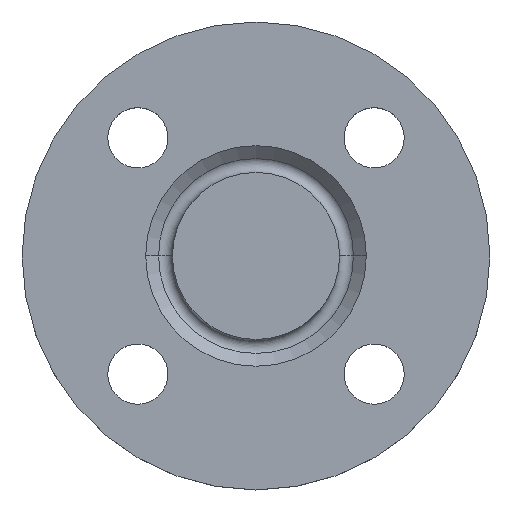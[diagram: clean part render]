
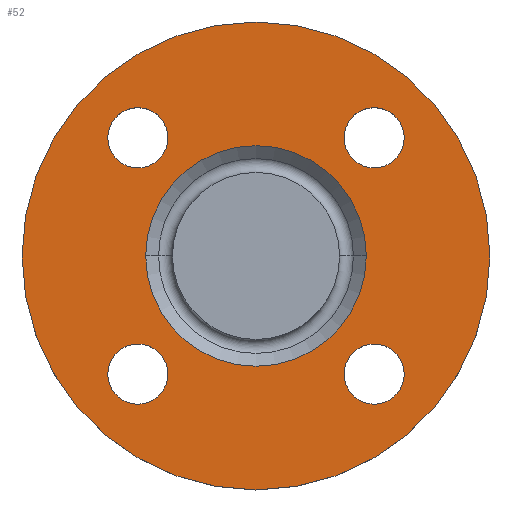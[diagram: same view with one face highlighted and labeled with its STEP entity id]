
A CAD part, top view. The second image highlights one B-rep face of the part: STEP entity #52.
In plain terms, the highlighted planar face has unit normal (0, 0, 1).
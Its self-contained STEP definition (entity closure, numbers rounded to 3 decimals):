
#2 = CIRCLE ( 'NONE', #486, 70. ) ;
#4 = DIRECTION ( 'NONE',  ( 0., 0., -1. ) ) ;
#9 = VERTEX_POINT ( 'NONE', #310 ) ;
#11 = CARTESIAN_POINT ( 'NONE',  ( 35.355, -35.355, -2. ) ) ;
#12 = EDGE_CURVE ( 'NONE', #539, #420, #18, .T. ) ;
#18 = CIRCLE ( 'NONE', #446, 9. ) ;
#22 = VERTEX_POINT ( 'NONE', #181 ) ;
#23 = ORIENTED_EDGE ( 'NONE', *, *, #587, .T. ) ;
#29 = ORIENTED_EDGE ( 'NONE', *, *, #489, .T. ) ;
#52 = ADVANCED_FACE ( 'NONE', ( #226, #494, #761, #165, #431, #413 ), #671, .T. ) ;
#57 = CARTESIAN_POINT ( 'NONE',  ( -26.355, -35.355, -2. ) ) ;
#61 = DIRECTION ( 'NONE',  ( -1., 0., 0. ) ) ;
#72 = VERTEX_POINT ( 'NONE', #155 ) ;
#82 = DIRECTION ( 'NONE',  ( 0., 0., -1. ) ) ;
#87 = DIRECTION ( 'NONE',  ( 0., 0., -1. ) ) ;
#90 = CARTESIAN_POINT ( 'NONE',  ( 70., 0., -2. ) ) ;
#93 = DIRECTION ( 'NONE',  ( 1., 0., 0. ) ) ;
#110 = DIRECTION ( 'NONE',  ( 1., 0., 0. ) ) ;
#118 = DIRECTION ( 'NONE',  ( -1., 0., 0. ) ) ;
#124 = EDGE_LOOP ( 'NONE', ( #491, #23 ) ) ;
#127 = VERTEX_POINT ( 'NONE', #57 ) ;
#135 = CARTESIAN_POINT ( 'NONE',  ( 26.355, 35.355, -2. ) ) ;
#139 = VERTEX_POINT ( 'NONE', #777 ) ;
#144 = DIRECTION ( 'NONE',  ( 1., 0., 0. ) ) ;
#149 = EDGE_CURVE ( 'NONE', #714, #608, #236, .T. ) ;
#153 = ORIENTED_EDGE ( 'NONE', *, *, #12, .T. ) ;
#155 = CARTESIAN_POINT ( 'NONE',  ( -44.355, 35.355, -2. ) ) ;
#165 = FACE_BOUND ( 'NONE', #745, .T. ) ;
#166 = EDGE_CURVE ( 'NONE', #608, #714, #347, .T. ) ;
#168 = CARTESIAN_POINT ( 'NONE',  ( -70., 0., -2. ) ) ;
#181 = CARTESIAN_POINT ( 'NONE',  ( -44.355, -35.355, -2. ) ) ;
#188 = CARTESIAN_POINT ( 'NONE',  ( 26.355, -35.355, -2. ) ) ;
#189 = ORIENTED_EDGE ( 'NONE', *, *, #526, .F. ) ;
#199 = ORIENTED_EDGE ( 'NONE', *, *, #371, .T. ) ;
#204 = ORIENTED_EDGE ( 'NONE', *, *, #507, .T. ) ;
#226 = FACE_BOUND ( 'NONE', #265, .T. ) ;
#229 = AXIS2_PLACEMENT_3D ( 'NONE', #435, #696, #110 ) ;
#235 = AXIS2_PLACEMENT_3D ( 'NONE', #662, #82, #334 ) ;
#236 = CIRCLE ( 'NONE', #715, 33. ) ;
#244 = DIRECTION ( 'NONE',  ( 1., 0., 0. ) ) ;
#254 = AXIS2_PLACEMENT_3D ( 'NONE', #11, #266, #536 ) ;
#258 = DIRECTION ( 'NONE',  ( 1., 0., 0. ) ) ;
#261 = DIRECTION ( 'NONE',  ( 0., 0., -1. ) ) ;
#263 = ORIENTED_EDGE ( 'NONE', *, *, #166, .T. ) ;
#265 = EDGE_LOOP ( 'NONE', ( #29, #204 ) ) ;
#266 = DIRECTION ( 'NONE',  ( 0., 0., -1. ) ) ;
#272 = ORIENTED_EDGE ( 'NONE', *, *, #607, .T. ) ;
#273 = CARTESIAN_POINT ( 'NONE',  ( -35.355, -35.355, -2. ) ) ;
#305 = CIRCLE ( 'NONE', #790, 9. ) ;
#310 = CARTESIAN_POINT ( 'NONE',  ( 44.355, -35.355, -2. ) ) ;
#334 = DIRECTION ( 'NONE',  ( -1., 0., 0. ) ) ;
#338 = VERTEX_POINT ( 'NONE', #764 ) ;
#341 = DIRECTION ( 'NONE',  ( 1., 0., 0. ) ) ;
#344 = DIRECTION ( 'NONE',  ( 0., 0., 1. ) ) ;
#346 = VERTEX_POINT ( 'NONE', #168 ) ;
#347 = CIRCLE ( 'NONE', #837, 33. ) ;
#362 = AXIS2_PLACEMENT_3D ( 'NONE', #273, #541, #805 ) ;
#370 = CIRCLE ( 'NONE', #229, 9. ) ;
#371 = EDGE_CURVE ( 'NONE', #338, #72, #370, .T. ) ;
#382 = CARTESIAN_POINT ( 'NONE',  ( 0., 0., -2. ) ) ;
#398 = ORIENTED_EDGE ( 'NONE', *, *, #149, .T. ) ;
#409 = CARTESIAN_POINT ( 'NONE',  ( -33., 0., -2. ) ) ;
#413 = FACE_OUTER_BOUND ( 'NONE', #669, .T. ) ;
#418 = CARTESIAN_POINT ( 'NONE',  ( -35.355, 35.355, -2. ) ) ;
#420 = VERTEX_POINT ( 'NONE', #574 ) ;
#431 = FACE_BOUND ( 'NONE', #749, .T. ) ;
#435 = CARTESIAN_POINT ( 'NONE',  ( -35.355, 35.355, -2. ) ) ;
#446 = AXIS2_PLACEMENT_3D ( 'NONE', #573, #844, #244 ) ;
#447 = CARTESIAN_POINT ( 'NONE',  ( 0., 0., -2. ) ) ;
#458 = AXIS2_PLACEMENT_3D ( 'NONE', #473, #735, #144 ) ;
#460 = AXIS2_PLACEMENT_3D ( 'NONE', #90, #344, #610 ) ;
#467 = VERTEX_POINT ( 'NONE', #188 ) ;
#473 = CARTESIAN_POINT ( 'NONE',  ( 35.355, 35.355, -2. ) ) ;
#479 = AXIS2_PLACEMENT_3D ( 'NONE', #668, #87, #341 ) ;
#486 = AXIS2_PLACEMENT_3D ( 'NONE', #730, #261, #530 ) ;
#489 = EDGE_CURVE ( 'NONE', #9, #467, #305, .T. ) ;
#491 = ORIENTED_EDGE ( 'NONE', *, *, #754, .T. ) ;
#494 = FACE_BOUND ( 'NONE', #124, .T. ) ;
#507 = EDGE_CURVE ( 'NONE', #467, #9, #630, .T. ) ;
#526 = EDGE_CURVE ( 'NONE', #139, #346, #2, .T. ) ;
#530 = DIRECTION ( 'NONE',  ( -1., 0., 0. ) ) ;
#536 = DIRECTION ( 'NONE',  ( 1., 0., 0. ) ) ;
#539 = VERTEX_POINT ( 'NONE', #135 ) ;
#541 = DIRECTION ( 'NONE',  ( 0., 0., -1. ) ) ;
#551 = ORIENTED_EDGE ( 'NONE', *, *, #802, .T. ) ;
#573 = CARTESIAN_POINT ( 'NONE',  ( 35.355, 35.355, -2. ) ) ;
#574 = CARTESIAN_POINT ( 'NONE',  ( 44.355, 35.355, -2. ) ) ;
#586 = CARTESIAN_POINT ( 'NONE',  ( 35.355, -35.355, -2. ) ) ;
#587 = EDGE_CURVE ( 'NONE', #22, #127, #725, .T. ) ;
#600 = CARTESIAN_POINT ( 'NONE',  ( 33., 0., -2. ) ) ;
#601 = ORIENTED_EDGE ( 'NONE', *, *, #713, .F. ) ;
#604 = CIRCLE ( 'NONE', #235, 70. ) ;
#607 = EDGE_CURVE ( 'NONE', #420, #539, #842, .T. ) ;
#608 = VERTEX_POINT ( 'NONE', #409 ) ;
#610 = DIRECTION ( 'NONE',  ( 1., 0., 0. ) ) ;
#630 = CIRCLE ( 'NONE', #254, 9. ) ;
#642 = DIRECTION ( 'NONE',  ( 0., 0., -1. ) ) ;
#662 = CARTESIAN_POINT ( 'NONE',  ( 0., 0., -2. ) ) ;
#668 = CARTESIAN_POINT ( 'NONE',  ( -35.355, -35.355, -2. ) ) ;
#669 = EDGE_LOOP ( 'NONE', ( #189, #601 ) ) ;
#671 = PLANE ( 'NONE',  #460 ) ;
#679 = DIRECTION ( 'NONE',  ( 0., 0., -1. ) ) ;
#696 = DIRECTION ( 'NONE',  ( 0., 0., -1. ) ) ;
#702 = AXIS2_PLACEMENT_3D ( 'NONE', #418, #679, #93 ) ;
#707 = DIRECTION ( 'NONE',  ( 0., 0., -1. ) ) ;
#713 = EDGE_CURVE ( 'NONE', #346, #139, #604, .T. ) ;
#714 = VERTEX_POINT ( 'NONE', #600 ) ;
#715 = AXIS2_PLACEMENT_3D ( 'NONE', #447, #707, #118 ) ;
#725 = CIRCLE ( 'NONE', #362, 9. ) ;
#730 = CARTESIAN_POINT ( 'NONE',  ( 0., 0., -2. ) ) ;
#735 = DIRECTION ( 'NONE',  ( 0., 0., -1. ) ) ;
#745 = EDGE_LOOP ( 'NONE', ( #272, #153 ) ) ;
#749 = EDGE_LOOP ( 'NONE', ( #398, #263 ) ) ;
#754 = EDGE_CURVE ( 'NONE', #127, #22, #848, .T. ) ;
#761 = FACE_BOUND ( 'NONE', #808, .T. ) ;
#764 = CARTESIAN_POINT ( 'NONE',  ( -26.355, 35.355, -2. ) ) ;
#777 = CARTESIAN_POINT ( 'NONE',  ( 70., 0., -2. ) ) ;
#790 = AXIS2_PLACEMENT_3D ( 'NONE', #586, #4, #258 ) ;
#802 = EDGE_CURVE ( 'NONE', #72, #338, #816, .T. ) ;
#805 = DIRECTION ( 'NONE',  ( 1., 0., 0. ) ) ;
#808 = EDGE_LOOP ( 'NONE', ( #199, #551 ) ) ;
#816 = CIRCLE ( 'NONE', #702, 9. ) ;
#837 = AXIS2_PLACEMENT_3D ( 'NONE', #382, #642, #61 ) ;
#842 = CIRCLE ( 'NONE', #458, 9. ) ;
#844 = DIRECTION ( 'NONE',  ( 0., 0., -1. ) ) ;
#848 = CIRCLE ( 'NONE', #479, 9. ) ;
